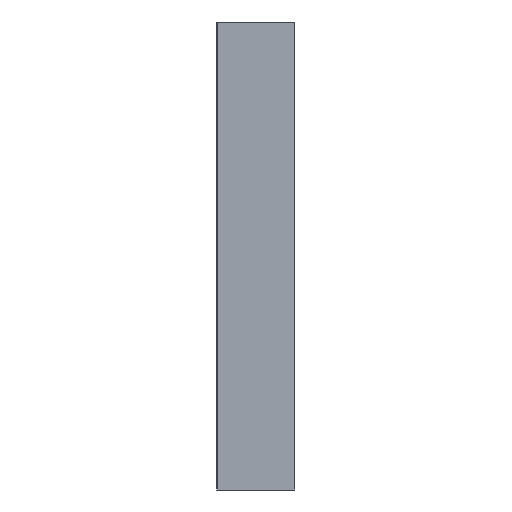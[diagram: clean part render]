
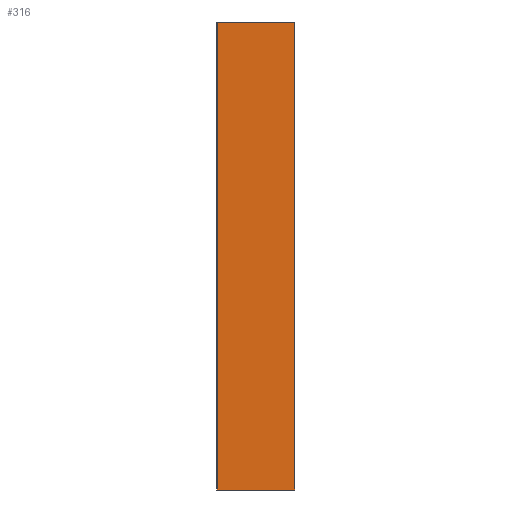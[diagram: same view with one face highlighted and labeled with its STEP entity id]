
A CAD part, front view. The second image highlights one B-rep face of the part: STEP entity #316.
In plain terms, the highlighted planar face has unit normal (0, -1, 0).
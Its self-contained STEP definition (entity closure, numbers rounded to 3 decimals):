
#28 = LINE ( 'NONE', #259, #215 ) ;
#42 = DIRECTION ( 'NONE',  ( 0., 0., 1. ) ) ;
#49 = DIRECTION ( 'NONE',  ( -1., 0., 0. ) ) ;
#78 = DIRECTION ( 'NONE',  ( 0., 0., -1. ) ) ;
#79 = VECTOR ( 'NONE', #339, 1000. ) ;
#81 = ORIENTED_EDGE ( 'NONE', *, *, #459, .T. ) ;
#82 = LINE ( 'NONE', #553, #321 ) ;
#115 = CARTESIAN_POINT ( 'NONE',  ( 25., -2., 299.9 ) ) ;
#172 = LINE ( 'NONE', #115, #79 ) ;
#195 = ORIENTED_EDGE ( 'NONE', *, *, #490, .T. ) ;
#215 = VECTOR ( 'NONE', #78, 1000. ) ;
#237 = EDGE_LOOP ( 'NONE', ( #81, #195, #466, #437 ) ) ;
#259 = CARTESIAN_POINT ( 'NONE',  ( -24.9, -2., 300. ) ) ;
#261 = EDGE_CURVE ( 'NONE', #537, #378, #28, .T. ) ;
#278 = CARTESIAN_POINT ( 'NONE',  ( -24.9, -2., 299.9 ) ) ;
#316 = ADVANCED_FACE ( 'NONE', ( #630 ), #637, .F. ) ;
#321 = VECTOR ( 'NONE', #572, 1000. ) ;
#339 = DIRECTION ( 'NONE',  ( -1., 0., 0. ) ) ;
#352 = CARTESIAN_POINT ( 'NONE',  ( 24.9, -2., 299.9 ) ) ;
#378 = VERTEX_POINT ( 'NONE', #727 ) ;
#437 = ORIENTED_EDGE ( 'NONE', *, *, #261, .T. ) ;
#459 = EDGE_CURVE ( 'NONE', #378, #507, #82, .T. ) ;
#466 = ORIENTED_EDGE ( 'NONE', *, *, #522, .T. ) ;
#490 = EDGE_CURVE ( 'NONE', #507, #607, #751, .T. ) ;
#507 = VERTEX_POINT ( 'NONE', #643 ) ;
#514 = VECTOR ( 'NONE', #42, 1000. ) ;
#520 = DIRECTION ( 'NONE',  ( 0., 1., 0. ) ) ;
#522 = EDGE_CURVE ( 'NONE', #607, #537, #172, .T. ) ;
#525 = AXIS2_PLACEMENT_3D ( 'NONE', #584, #520, #49 ) ;
#537 = VERTEX_POINT ( 'NONE', #278 ) ;
#553 = CARTESIAN_POINT ( 'NONE',  ( 25., -2., 0. ) ) ;
#572 = DIRECTION ( 'NONE',  ( 1., 0., 0. ) ) ;
#575 = CARTESIAN_POINT ( 'NONE',  ( 24.9, -2., 300. ) ) ;
#584 = CARTESIAN_POINT ( 'NONE',  ( 25., -2., 300. ) ) ;
#607 = VERTEX_POINT ( 'NONE', #352 ) ;
#630 = FACE_OUTER_BOUND ( 'NONE', #237, .T. ) ;
#637 = PLANE ( 'NONE',  #525 ) ;
#643 = CARTESIAN_POINT ( 'NONE',  ( 24.9, -2., 0. ) ) ;
#727 = CARTESIAN_POINT ( 'NONE',  ( -24.9, -2., 0. ) ) ;
#751 = LINE ( 'NONE', #575, #514 ) ;
